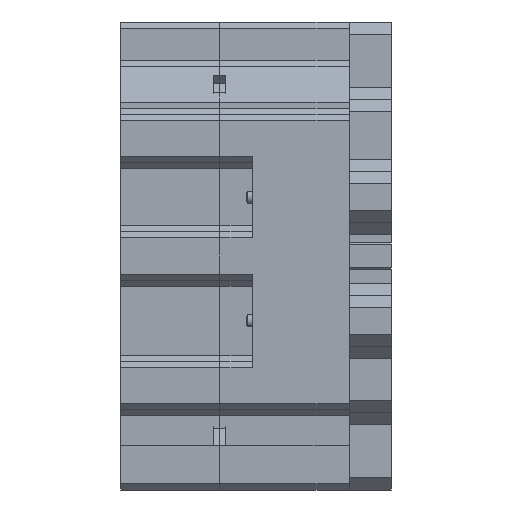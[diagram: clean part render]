
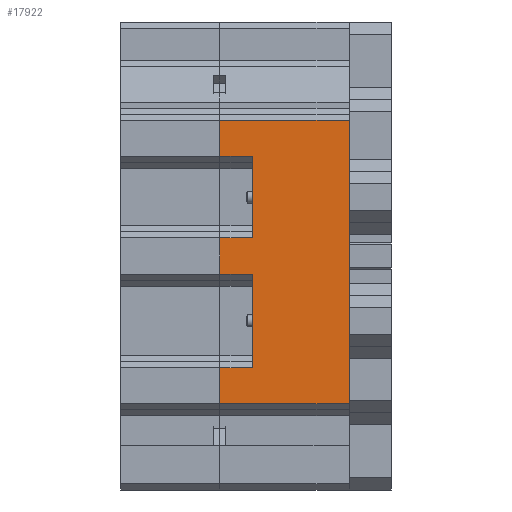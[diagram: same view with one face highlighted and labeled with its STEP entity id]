
A CAD part, front view. The second image highlights one B-rep face of the part: STEP entity #17922.
In plain terms, the highlighted planar face has unit normal (0, -1, 0).
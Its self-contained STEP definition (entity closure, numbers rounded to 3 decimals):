
#1940=FACE_OUTER_BOUND('',#2976,.T.);
#2976=EDGE_LOOP('',(#14683,#14684,#14685,#14686,#14687,#14688,#14689,#14690,
#14691,#14692,#14693,#14694));
#4079=LINE('',#27837,#5885);
#4286=LINE('',#28447,#6092);
#4294=LINE('',#28463,#6100);
#4302=LINE('',#28479,#6108);
#4582=LINE('',#29491,#6388);
#4609=LINE('',#29548,#6415);
#4757=LINE('',#29868,#6563);
#4759=LINE('',#29871,#6565);
#4762=LINE('',#29877,#6568);
#4767=LINE('',#29885,#6573);
#4770=LINE('',#29891,#6576);
#4771=LINE('',#29893,#6577);
#5885=VECTOR('',#21389,10.);
#6092=VECTOR('',#21624,10.);
#6100=VECTOR('',#21632,10.);
#6108=VECTOR('',#21640,10.);
#6388=VECTOR('',#22140,10.);
#6415=VECTOR('',#22179,10.);
#6563=VECTOR('',#22531,10.);
#6565=VECTOR('',#22535,10.);
#6568=VECTOR('',#22544,10.);
#6573=VECTOR('',#22555,10.);
#6576=VECTOR('',#22564,10.);
#6577=VECTOR('',#22567,10.);
#7630=VERTEX_POINT('',#27834);
#7631=VERTEX_POINT('',#27836);
#7858=VERTEX_POINT('',#28444);
#7859=VERTEX_POINT('',#28446);
#7866=VERTEX_POINT('',#28460);
#7867=VERTEX_POINT('',#28462);
#7874=VERTEX_POINT('',#28476);
#7875=VERTEX_POINT('',#28478);
#8092=VERTEX_POINT('',#29488);
#8093=VERTEX_POINT('',#29490);
#8116=VERTEX_POINT('',#29545);
#8117=VERTEX_POINT('',#29547);
#9645=EDGE_CURVE('',#7631,#7630,#4079,.T.);
#9881=EDGE_CURVE('',#7859,#7858,#4286,.T.);
#9889=EDGE_CURVE('',#7867,#7866,#4294,.T.);
#9897=EDGE_CURVE('',#7875,#7874,#4302,.T.);
#10232=EDGE_CURVE('',#8092,#8093,#4582,.T.);
#10259=EDGE_CURVE('',#8116,#8117,#4609,.T.);
#10417=EDGE_CURVE('',#7631,#7858,#4757,.T.);
#10419=EDGE_CURVE('',#7859,#8092,#4759,.T.);
#10422=EDGE_CURVE('',#8093,#7866,#4762,.T.);
#10427=EDGE_CURVE('',#7867,#8116,#4767,.T.);
#10430=EDGE_CURVE('',#8117,#7874,#4770,.T.);
#10431=EDGE_CURVE('',#7875,#7630,#4771,.T.);
#14683=ORIENTED_EDGE('',*,*,#10431,.F.);
#14684=ORIENTED_EDGE('',*,*,#9897,.T.);
#14685=ORIENTED_EDGE('',*,*,#10430,.F.);
#14686=ORIENTED_EDGE('',*,*,#10259,.F.);
#14687=ORIENTED_EDGE('',*,*,#10427,.F.);
#14688=ORIENTED_EDGE('',*,*,#9889,.T.);
#14689=ORIENTED_EDGE('',*,*,#10422,.F.);
#14690=ORIENTED_EDGE('',*,*,#10232,.F.);
#14691=ORIENTED_EDGE('',*,*,#10419,.F.);
#14692=ORIENTED_EDGE('',*,*,#9881,.T.);
#14693=ORIENTED_EDGE('',*,*,#10417,.F.);
#14694=ORIENTED_EDGE('',*,*,#9645,.T.);
#16249=PLANE('',#19099);
#17922=ADVANCED_FACE('',(#1940),#16249,.F.);
#19099=AXIS2_PLACEMENT_3D('',#29892,#22565,#22566);
#21389=DIRECTION('',(0.,0.,1.));
#21624=DIRECTION('',(0.,0.,-1.));
#21632=DIRECTION('',(0.,0.,-1.));
#21640=DIRECTION('',(0.,0.,-1.));
#22140=DIRECTION('',(0.,0.,1.));
#22179=DIRECTION('',(0.,0.,1.));
#22531=DIRECTION('',(-1.,0.,0.));
#22535=DIRECTION('',(1.,0.,0.));
#22544=DIRECTION('',(-1.,0.,0.));
#22555=DIRECTION('',(1.,0.,0.));
#22564=DIRECTION('',(-1.,0.,0.));
#22565=DIRECTION('center_axis',(0.,1.,0.));
#22566=DIRECTION('ref_axis',(0.,0.,1.));
#22567=DIRECTION('',(1.,0.,0.));
#27834=CARTESIAN_POINT('',(21.414,-44.8,47.9));
#27836=CARTESIAN_POINT('',(21.414,-44.8,1.));
#27837=CARTESIAN_POINT('',(21.414,-44.8,36.675));
#28444=CARTESIAN_POINT('',(0.,-44.8,1.));
#28446=CARTESIAN_POINT('',(0.,-44.8,6.965));
#28447=CARTESIAN_POINT('',(0.,-44.8,7.965));
#28460=CARTESIAN_POINT('',(0.,-44.8,22.467));
#28462=CARTESIAN_POINT('',(0.,-44.8,28.433));
#28463=CARTESIAN_POINT('',(0.,-44.8,29.433));
#28476=CARTESIAN_POINT('',(0.,-44.8,41.935));
#28478=CARTESIAN_POINT('',(0.,-44.8,47.9));
#28479=CARTESIAN_POINT('',(0.,-44.8,48.9));
#29488=CARTESIAN_POINT('',(5.414,-44.8,6.965));
#29490=CARTESIAN_POINT('',(5.414,-44.8,22.467));
#29491=CARTESIAN_POINT('',(5.414,-44.8,22.467));
#29545=CARTESIAN_POINT('',(5.414,-44.8,28.433));
#29547=CARTESIAN_POINT('',(5.414,-44.8,41.935));
#29548=CARTESIAN_POINT('',(5.414,-44.8,41.935));
#29868=CARTESIAN_POINT('',(0.,-44.8,1.));
#29871=CARTESIAN_POINT('',(0.,-44.8,6.965));
#29877=CARTESIAN_POINT('',(0.,-44.8,22.467));
#29885=CARTESIAN_POINT('',(0.,-44.8,28.433));
#29891=CARTESIAN_POINT('',(0.,-44.8,41.935));
#29892=CARTESIAN_POINT('Origin',(0.,-44.8,40.935));
#29893=CARTESIAN_POINT('',(0.,-44.8,47.9));
